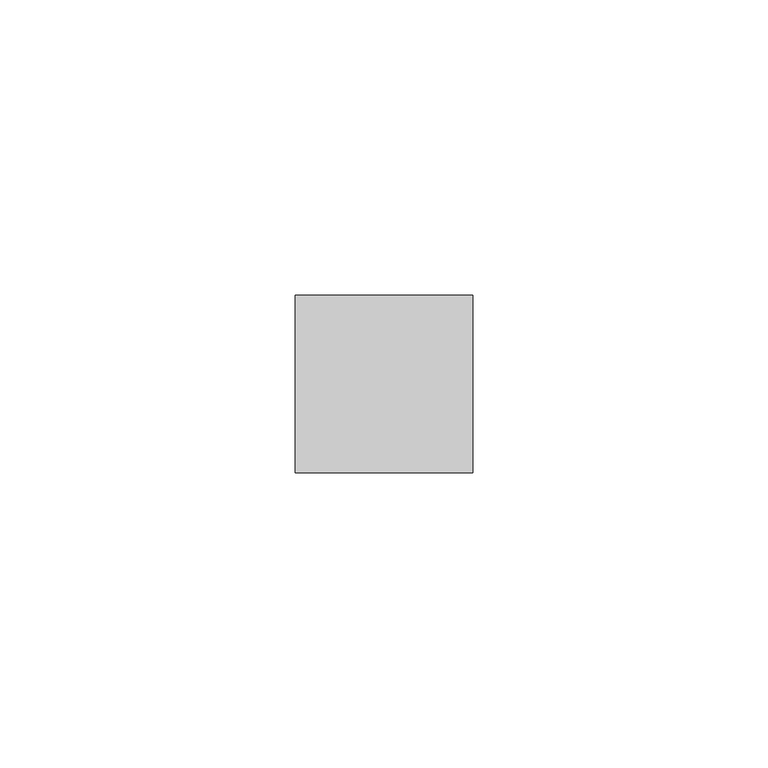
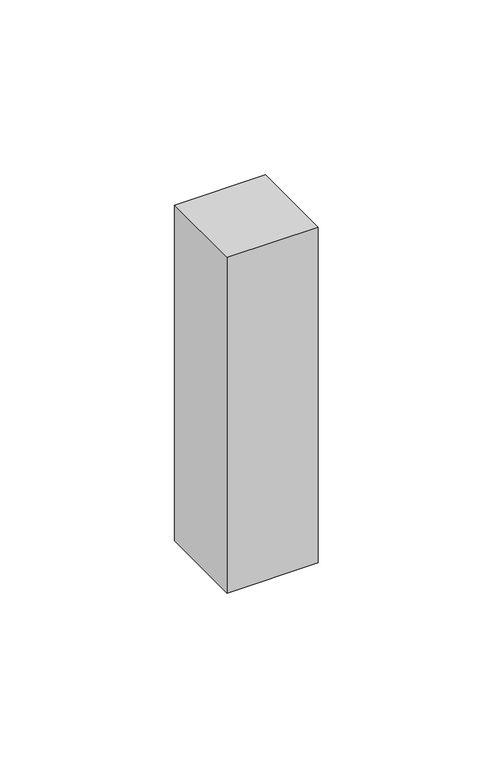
"""IFC4 building model written with IfcOpenShell, lengths in millimetres: member geometry, 矩形竖梃 : 30mm 正方形."""

from ifc_helpers import new_model, si_unit, frame, origin, place, context, project, spatial, polyline, outline, extrude, source, transform, mapped, element, save


def member_5b67f58a(model_context):
    return source(origin(), model_context, "Body", "SweptSolid", [
        extrude(outline(polyline([(15.0, 15.0), (15.0, -15.0), (-15.0, -15.0), (-15.0, 15.0), (15.0, 15.0)])), frame((0.0, 0.0, -117.1572872), z_axis=(0.0, 0.0, 1.0), x_axis=(1.0, 0.0, 0.0)), (0.0, 0.0, 1.0), 117.1572872),
    ])


if __name__ == "__main__":
    model = new_model("IFC4")
    model_context = context("Model", 3, world=origin())
    ifc_project = project(units=[si_unit("LENGTHUNIT", "METRE", prefix="MILLI")], contexts=[model_context])
    site = spatial("IfcSite", under=ifc_project)
    building = spatial("IfcBuilding", under=site)
    placement = place(None, origin())
    member_shape = member_5b67f58a(model_context)
    element("IfcMember", 1, ObjectType="矩形竖梃 : 30mm 正方形", at=placement, inside=building, context=model_context, shape_type="MappedRepresentation", body=[
        mapped(member_shape, transform((0.0, 0.0, 0.0), x_axis=(1.0, 0.0, 0.0), y_axis=(0.0, 1.0, 0.0), z_axis=(0.0, 0.0, 1.0))),
    ])
    save(model, "model.ifc")
